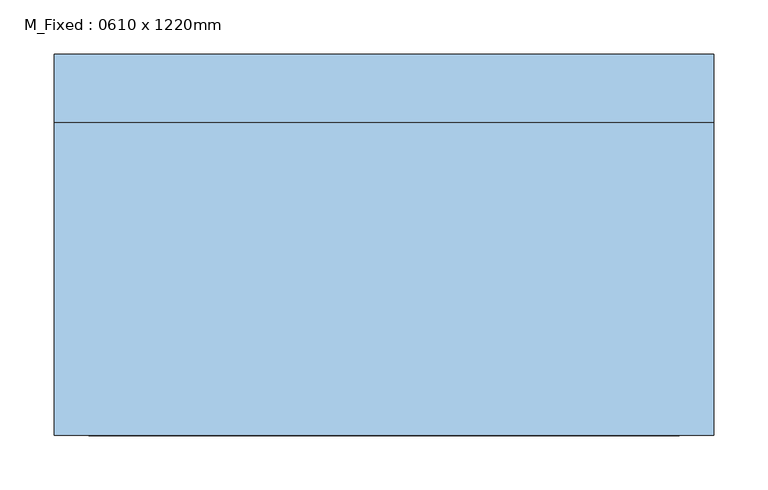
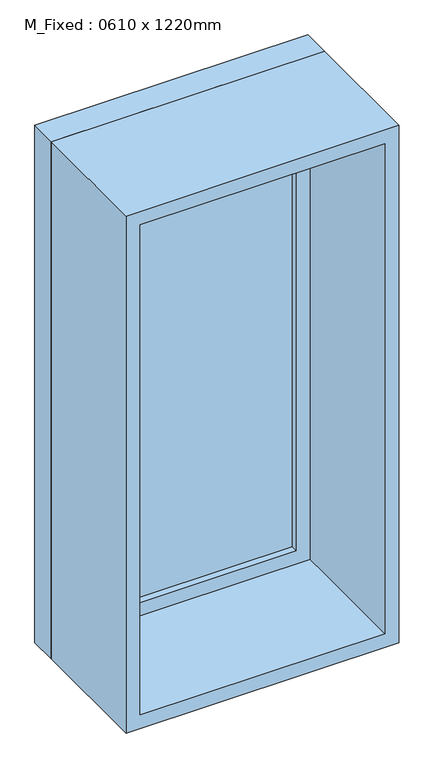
"""IFC4 building model written with IfcOpenShell, lengths in millimetres: window geometry, M_Fixed : 0610 x 1220mm."""

from ifc_helpers import new_model, si_unit, frame, origin, place, context, project, spatial, polyline, outline, extrude, source, transform, mapped, element, save


def m_fixed_0610_x_1220mm_2b91b687(model_context):
    return source(origin(), model_context, "Body", "SweptSolid", [
        extrude(outline(polyline([(-242.0, 154.2125), (242.0, 154.2125), (242.0, 142.2125), (-242.0, 142.2125), (-242.0, 154.2125)])), frame((0.0, 0.0, 978.0), z_axis=(0.0, 0.0, 1.0), x_axis=(1.0, 0.0, 0.0)), (0.0, 0.0, 1.0), 1094.0),
        extrude(outline(polyline([(2116.0, -286.0), (934.0, -286.0), (934.0, 286.0), (2116.0, 286.0), (2116.0, -286.0)]), holes=[polyline([(2072.0, -242.0), (2072.0, 242.0), (978.0, 242.0), (978.0, -242.0), (2072.0, -242.0)])]), frame((0.0, 126.2125, 0.0), z_axis=(0.0, 1.0, 0.0), x_axis=(0.0, 0.0, 1.0)), (0.0, 0.0, 1.0), 44.0),
        extrude(outline(polyline([(2135.0, -305.0), (915.0, -305.0), (915.0, 305.0), (2135.0, 305.0), (2135.0, -305.0)]), holes=[polyline([(2116.0, -286.0), (2116.0, 286.0), (934.0, 286.0), (934.0, -286.0), (2116.0, -286.0)])]), frame((0.0, 126.2125, 0.0), z_axis=(0.0, 1.0, 0.0), x_axis=(0.0, 0.0, 1.0)), (0.0, 0.0, 1.0), 63.0),
        extrude(outline(polyline([(2135.0, -305.0), (915.0, -305.0), (915.0, 305.0), (2135.0, 305.0), (2135.0, -305.0)]), holes=[polyline([(2103.0, -273.0), (2103.0, 273.0), (947.0, 273.0), (947.0, -273.0), (2103.0, -273.0)])]), frame((0.0, -163.2125, 0.0), z_axis=(0.0, 1.0, 0.0), x_axis=(0.0, 0.0, 1.0)), (0.0, 0.0, 1.0), 289.425),
    ])


if __name__ == "__main__":
    model = new_model("IFC4")
    model_context = context("Model", 3, world=origin())
    ifc_project = project(units=[si_unit("LENGTHUNIT", "METRE", prefix="MILLI")], contexts=[model_context])
    site = spatial("IfcSite", under=ifc_project)
    building = spatial("IfcBuilding", under=site)
    placement = place(None, origin())
    m_fixed_0610_x_1220mm_shape = m_fixed_0610_x_1220mm_2b91b687(model_context)
    element("IfcWindow", 1, ObjectType="M_Fixed : 0610 x 1220mm", at=placement, inside=building, context=model_context, shape_type="MappedRepresentation", body=[
        mapped(m_fixed_0610_x_1220mm_shape, transform((0.0, 0.0, 0.0), x_axis=(1.0, 0.0, 0.0), y_axis=(0.0, 1.0, 0.0), z_axis=(0.0, 0.0, 1.0))),
    ])
    save(model, "model.ifc")
